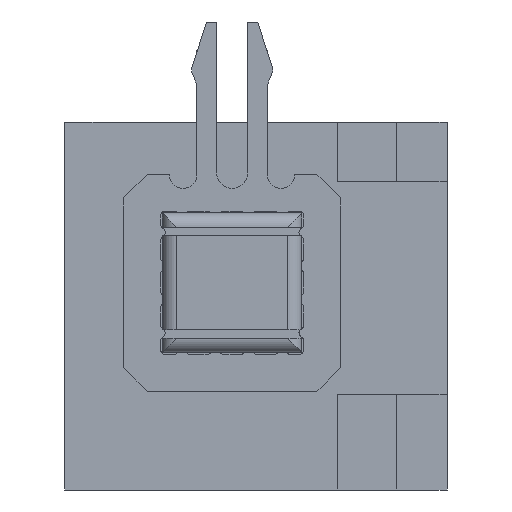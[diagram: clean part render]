
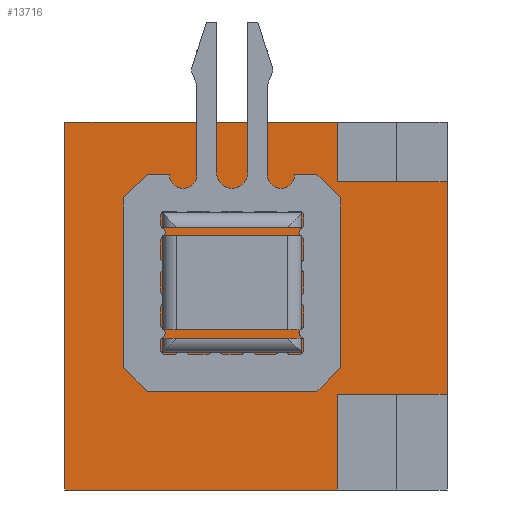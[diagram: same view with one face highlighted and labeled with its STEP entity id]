
A CAD part, front view. The second image highlights one B-rep face of the part: STEP entity #13716.
In plain terms, the highlighted planar face has unit normal (0, -1, 0).
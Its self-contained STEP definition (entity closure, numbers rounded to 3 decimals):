
#65=DIRECTION('',(0.,0.,1.));
#66=VECTOR('',#65,8.9);
#67=CARTESIAN_POINT('',(0.,-27.17,-11.4));
#68=LINE('',#67,#66);
#1504=DIRECTION('',(0.,0.,1.));
#1505=VECTOR('',#1504,15.4);
#1506=CARTESIAN_POINT('',(-16.,-27.17,-15.4));
#1507=LINE('',#1506,#1505);
#2900=DIRECTION('',(1.,0.,0.));
#2901=VECTOR('',#2900,11.4);
#2902=CARTESIAN_POINT('',(-16.,-27.17,-15.4));
#2903=LINE('',#2902,#2901);
#4140=DIRECTION('',(0.,0.,-1.));
#4141=VECTOR('',#4140,2.5);
#4142=CARTESIAN_POINT('',(-4.6,-27.17,0.));
#4143=LINE('',#4142,#4141);
#4144=DIRECTION('',(-1.,0.,0.));
#4145=VECTOR('',#4144,4.6);
#4146=CARTESIAN_POINT('',(0.,-27.17,-2.5));
#4147=LINE('',#4146,#4145);
#4148=DIRECTION('',(-1.,0.,0.));
#4149=VECTOR('',#4148,4.6);
#4150=CARTESIAN_POINT('',(0.,-27.17,-11.4));
#4151=LINE('',#4150,#4149);
#4152=DIRECTION('',(0.,0.,-1.));
#4153=VECTOR('',#4152,4.);
#4154=CARTESIAN_POINT('',(-4.6,-27.17,-11.4));
#4155=LINE('',#4154,#4153);
#4156=DIRECTION('',(1.,0.,0.));
#4157=VECTOR('',#4156,11.4);
#4158=CARTESIAN_POINT('',(-16.,-27.17,0.));
#4159=LINE('',#4158,#4157);
#4160=DIRECTION('',(0.,0.,1.));
#4161=VECTOR('',#4160,3.95);
#4162=CARTESIAN_POINT('',(-11.925,-27.17,-8.695));
#4163=LINE('',#4162,#4161);
#4164=DIRECTION('',(-1.,0.,0.));
#4165=VECTOR('',#4164,5.85);
#4166=CARTESIAN_POINT('',(-6.075,-27.17,-8.695));
#4167=LINE('',#4166,#4165);
#4168=DIRECTION('',(0.,0.,-1.));
#4169=VECTOR('',#4168,3.95);
#4170=CARTESIAN_POINT('',(-6.075,-27.17,-4.745));
#4171=LINE('',#4170,#4169);
#4172=DIRECTION('',(1.,0.,0.));
#4173=VECTOR('',#4172,5.85);
#4174=CARTESIAN_POINT('',(-11.925,-27.17,-4.745));
#4175=LINE('',#4174,#4173);
#4176=DIRECTION('',(0.,0.,1.));
#4177=VECTOR('',#4176,0.6);
#4178=CARTESIAN_POINT('',(-11.925,-27.17,-9.645));
#4179=LINE('',#4178,#4177);
#4180=DIRECTION('',(-1.,0.,0.));
#4181=VECTOR('',#4180,5.85);
#4182=CARTESIAN_POINT('',(-6.075,-27.17,-9.645));
#4183=LINE('',#4182,#4181);
#4184=DIRECTION('',(0.,0.,-1.));
#4185=VECTOR('',#4184,0.6);
#4186=CARTESIAN_POINT('',(-6.075,-27.17,-9.045));
#4187=LINE('',#4186,#4185);
#4188=DIRECTION('',(1.,0.,0.));
#4189=VECTOR('',#4188,5.85);
#4190=CARTESIAN_POINT('',(-11.925,-27.17,-9.045));
#4191=LINE('',#4190,#4189);
#4192=DIRECTION('',(1.,0.,0.));
#4193=VECTOR('',#4192,5.85);
#4194=CARTESIAN_POINT('',(-11.925,-27.17,-3.795));
#4195=LINE('',#4194,#4193);
#4196=DIRECTION('',(0.,0.,1.));
#4197=VECTOR('',#4196,0.6);
#4198=CARTESIAN_POINT('',(-11.925,-27.17,-4.395));
#4199=LINE('',#4198,#4197);
#4200=DIRECTION('',(-1.,0.,0.));
#4201=VECTOR('',#4200,5.85);
#4202=CARTESIAN_POINT('',(-6.075,-27.17,-4.395));
#4203=LINE('',#4202,#4201);
#4204=DIRECTION('',(0.,0.,-1.));
#4205=VECTOR('',#4204,0.6);
#4206=CARTESIAN_POINT('',(-6.075,-27.17,-3.795));
#4207=LINE('',#4206,#4205);
#6453=CARTESIAN_POINT('',(-16.,-27.17,-15.4));
#6454=CARTESIAN_POINT('',(-16.,-27.17,0.));
#6455=VERTEX_POINT('',#6453);
#6456=VERTEX_POINT('',#6454);
#6485=CARTESIAN_POINT('',(-4.6,-27.17,0.));
#6486=CARTESIAN_POINT('',(-4.6,-27.17,-2.5));
#6487=VERTEX_POINT('',#6485);
#6488=VERTEX_POINT('',#6486);
#6489=CARTESIAN_POINT('',(-4.6,-27.17,-11.4));
#6490=CARTESIAN_POINT('',(-4.6,-27.17,-15.4));
#6491=VERTEX_POINT('',#6489);
#6492=VERTEX_POINT('',#6490);
#6493=CARTESIAN_POINT('',(0.,-27.17,-11.4));
#6494=VERTEX_POINT('',#6493);
#6495=CARTESIAN_POINT('',(0.,-27.17,-2.5));
#6496=VERTEX_POINT('',#6495);
#6569=CARTESIAN_POINT('',(-11.925,-27.17,-8.695));
#6570=CARTESIAN_POINT('',(-11.925,-27.17,-4.745));
#6571=VERTEX_POINT('',#6569);
#6572=VERTEX_POINT('',#6570);
#6573=CARTESIAN_POINT('',(-6.075,-27.17,-4.745));
#6574=VERTEX_POINT('',#6573);
#6575=CARTESIAN_POINT('',(-6.075,-27.17,-8.695));
#6576=VERTEX_POINT('',#6575);
#6577=CARTESIAN_POINT('',(-11.925,-27.17,-9.645));
#6578=CARTESIAN_POINT('',(-11.925,-27.17,-9.045));
#6579=VERTEX_POINT('',#6577);
#6580=VERTEX_POINT('',#6578);
#6581=CARTESIAN_POINT('',(-6.075,-27.17,-9.045));
#6582=VERTEX_POINT('',#6581);
#6583=CARTESIAN_POINT('',(-6.075,-27.17,-9.645));
#6584=VERTEX_POINT('',#6583);
#6585=CARTESIAN_POINT('',(-11.925,-27.17,-3.795));
#6586=CARTESIAN_POINT('',(-6.075,-27.17,-3.795));
#6587=VERTEX_POINT('',#6585);
#6588=VERTEX_POINT('',#6586);
#6589=CARTESIAN_POINT('',(-6.075,-27.17,-4.395));
#6590=VERTEX_POINT('',#6589);
#6591=CARTESIAN_POINT('',(-11.925,-27.17,-4.395));
#6592=VERTEX_POINT('',#6591);
#13667=CARTESIAN_POINT('',(0.,-27.17,0.));
#13668=DIRECTION('',(0.,-1.,0.));
#13669=DIRECTION('',(0.,0.,-1.));
#13670=AXIS2_PLACEMENT_3D('',#13667,#13668,#13669);
#13671=PLANE('',#13670);
#13673=ORIENTED_EDGE('',*,*,#13672,.T.);
#13675=ORIENTED_EDGE('',*,*,#13674,.F.);
#13676=ORIENTED_EDGE('',*,*,#8434,.F.);
#13678=ORIENTED_EDGE('',*,*,#13677,.T.);
#13680=ORIENTED_EDGE('',*,*,#13679,.T.);
#13681=ORIENTED_EDGE('',*,*,#11886,.F.);
#13682=ORIENTED_EDGE('',*,*,#10157,.T.);
#13683=ORIENTED_EDGE('',*,*,#9199,.T.);
#13684=EDGE_LOOP('',(#13673,#13675,#13676,#13678,#13680,#13681,#13682,#13683));
#13685=FACE_OUTER_BOUND('',#13684,.F.);
#13687=ORIENTED_EDGE('',*,*,#13686,.F.);
#13689=ORIENTED_EDGE('',*,*,#13688,.F.);
#13691=ORIENTED_EDGE('',*,*,#13690,.F.);
#13693=ORIENTED_EDGE('',*,*,#13692,.F.);
#13694=EDGE_LOOP('',(#13687,#13689,#13691,#13693));
#13695=FACE_BOUND('',#13694,.F.);
#13697=ORIENTED_EDGE('',*,*,#13696,.F.);
#13699=ORIENTED_EDGE('',*,*,#13698,.F.);
#13701=ORIENTED_EDGE('',*,*,#13700,.F.);
#13703=ORIENTED_EDGE('',*,*,#13702,.F.);
#13704=EDGE_LOOP('',(#13697,#13699,#13701,#13703));
#13705=FACE_BOUND('',#13704,.F.);
#13707=ORIENTED_EDGE('',*,*,#13706,.F.);
#13709=ORIENTED_EDGE('',*,*,#13708,.F.);
#13711=ORIENTED_EDGE('',*,*,#13710,.F.);
#13713=ORIENTED_EDGE('',*,*,#13712,.F.);
#13714=EDGE_LOOP('',(#13707,#13709,#13711,#13713));
#13715=FACE_BOUND('',#13714,.F.);
#13716=ADVANCED_FACE('',(#13685,#13695,#13705,#13715),#13671,.T.);
#8434=EDGE_CURVE('',#6494,#6496,#68,.T.);
#9199=EDGE_CURVE('',#6456,#6487,#4159,.T.);
#10157=EDGE_CURVE('',#6455,#6456,#1507,.T.);
#11886=EDGE_CURVE('',#6455,#6492,#2903,.T.);
#13672=EDGE_CURVE('',#6487,#6488,#4143,.T.);
#13674=EDGE_CURVE('',#6496,#6488,#4147,.T.);
#13677=EDGE_CURVE('',#6494,#6491,#4151,.T.);
#13679=EDGE_CURVE('',#6491,#6492,#4155,.T.);
#13686=EDGE_CURVE('',#6571,#6572,#4163,.T.);
#13688=EDGE_CURVE('',#6576,#6571,#4167,.T.);
#13690=EDGE_CURVE('',#6574,#6576,#4171,.T.);
#13692=EDGE_CURVE('',#6572,#6574,#4175,.T.);
#13696=EDGE_CURVE('',#6579,#6580,#4179,.T.);
#13698=EDGE_CURVE('',#6584,#6579,#4183,.T.);
#13700=EDGE_CURVE('',#6582,#6584,#4187,.T.);
#13702=EDGE_CURVE('',#6580,#6582,#4191,.T.);
#13706=EDGE_CURVE('',#6587,#6588,#4195,.T.);
#13708=EDGE_CURVE('',#6592,#6587,#4199,.T.);
#13710=EDGE_CURVE('',#6590,#6592,#4203,.T.);
#13712=EDGE_CURVE('',#6588,#6590,#4207,.T.);
